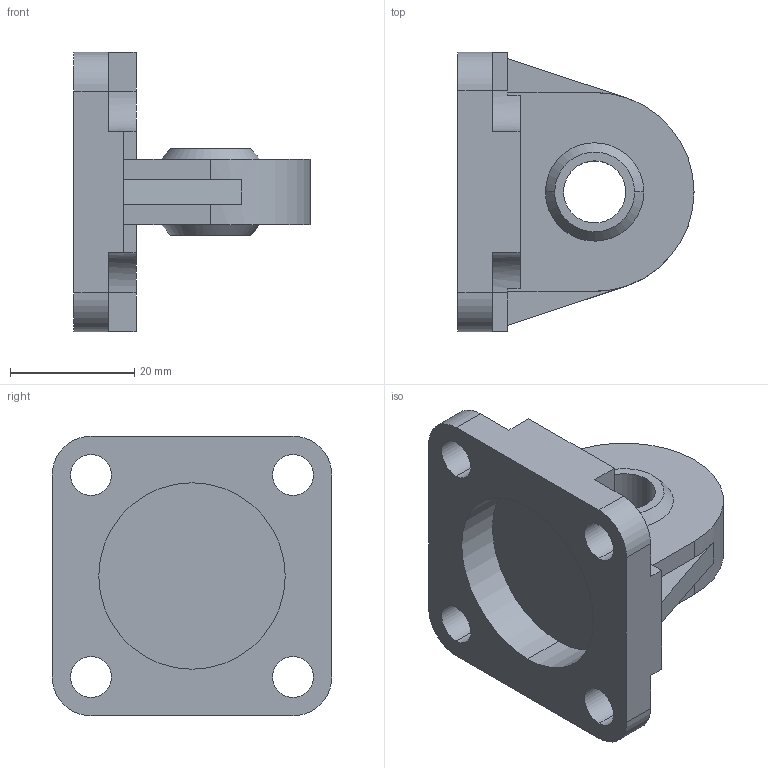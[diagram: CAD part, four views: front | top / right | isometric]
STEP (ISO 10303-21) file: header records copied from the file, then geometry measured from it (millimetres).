
FILE_DESCRIPTION (( 'STEP AP203' ), '1' );
FILE_NAME ('Gegenlager_sphaerisch_GL-MP6-3260_536380.step', '2021-07-09T14:19:40', ( '' ), ( '' ), 'SwSTEP 2.0', 'SolidWorks 2020', '' );
FILE_SCHEMA (( 'CONFIG_CONTROL_DESIGN' ));
Length unit declared in the file: millimetre
Products named in the file (1): Gegenlager_sphaerisch_GL-MP6-3260_536380
Bounding box: 38 x 45 x 45 mm (x, y, z)
Volume: 19176.4 mm3; surface area: 8984.5 mm2
Topology: 1 solids, 1 shells, 65 faces, 181 edges, 122 vertices
Faces by surface type: plane 40, cylinder 22, bspline 3
Entity records: 2557 total; most frequent: CARTESIAN_POINT 756, ORIENTED_EDGE 362, DIRECTION 353, EDGE_CURVE 181, VERTEX_POINT 122, VECTOR 119, LINE 119, AXIS2_PLACEMENT_3D 117
